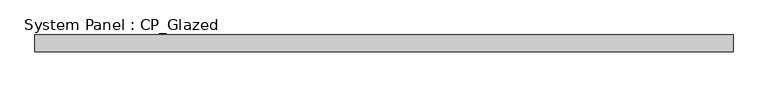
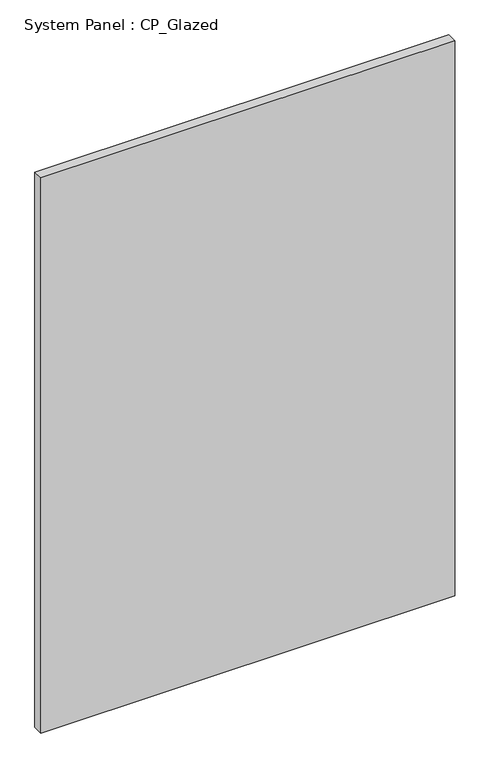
"""IFC4 building model written with IfcOpenShell, lengths in millimetres: plate geometry, System Panel : CP_Glazed."""

from ifc_helpers import new_model, si_unit, origin, origin_with_axes, place, context, project, spatial, polyline, outline, extrude, source, transform, mapped, element, save


def system_panel_cp_glazed_5df47cb0(model_context):
    return source(origin(), model_context, "Body", "SweptSolid", [
        extrude(outline(polyline([(521.6525, 19.05), (-521.6525, 19.05), (-521.6525, 44.45), (521.6525, 44.45), (521.6525, 19.05)])), origin_with_axes(), (0.0, 0.0, 1.0), 1479.55),
    ])


if __name__ == "__main__":
    model = new_model("IFC4")
    model_context = context("Model", 3, world=origin())
    ifc_project = project(units=[si_unit("LENGTHUNIT", "METRE", prefix="MILLI")], contexts=[model_context])
    site = spatial("IfcSite", under=ifc_project)
    building = spatial("IfcBuilding", under=site)
    placement = place(None, origin())
    system_panel_cp_glazed_shape = system_panel_cp_glazed_5df47cb0(model_context)
    element("IfcPlate", 1, ObjectType="System Panel : CP_Glazed", at=placement, inside=building, context=model_context, shape_type="MappedRepresentation", body=[
        mapped(system_panel_cp_glazed_shape, transform((0.0, 0.0, 0.0), x_axis=(1.0, 0.0, 0.0), y_axis=(0.0, 1.0, 0.0), z_axis=(0.0, 0.0, 1.0))),
    ])
    save(model, "model.ifc")
